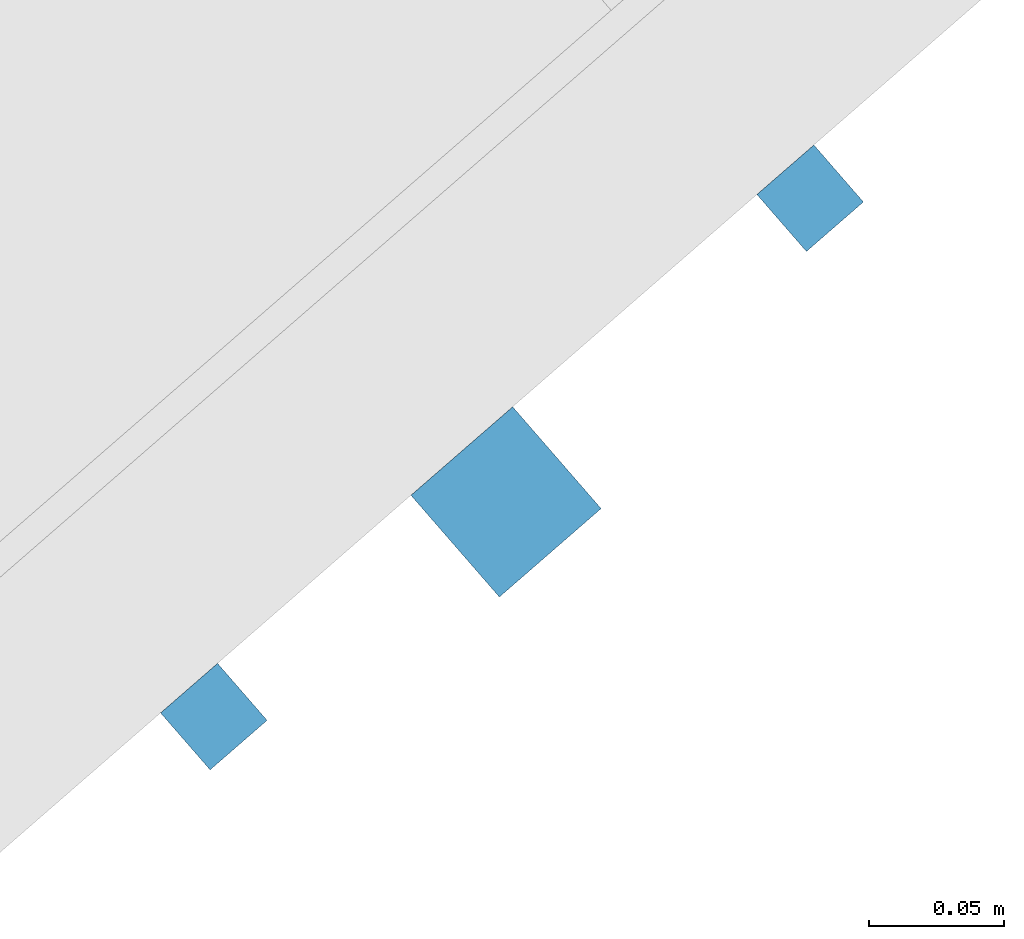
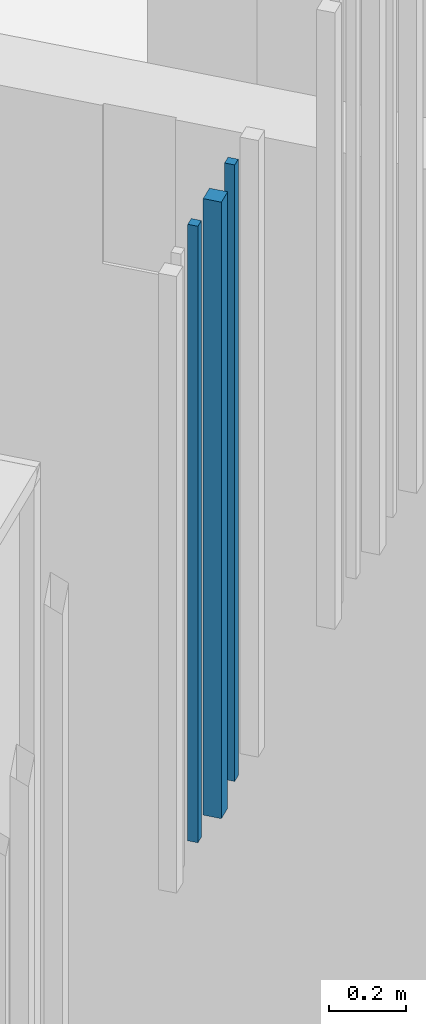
# One storey, part 43 of 124: 3 walls.
"""IFC2X3 building model written with IfcOpenShell, lengths in millimetres."""

from ifc_helpers import new_model, entity, si_unit, converted_unit, derived_unit, money_unit, direction, frame, origin_with_axes, place, context, subcontext, project, spatial, faceted_brep, material, type_object, element, save


model = new_model("IFC2X3")

# Units and contexts
model_context = context("Model", 3, precision=1e-05, world=origin_with_axes(), true_north=direction((0.0, 1.0)))
body_context = subcontext(model_context, "Body", "Model", "MODEL_VIEW")
ifc_project = project(units=[si_unit("LENGTHUNIT", "METRE", prefix="MILLI"), si_unit("AREAUNIT", "SQUARE_METRE"), si_unit("VOLUMEUNIT", "CUBIC_METRE"), converted_unit("PLANEANGLEUNIT", "DEGREE", entity("IfcPlaneAngleMeasure", 0.0174532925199), si_unit("PLANEANGLEUNIT", "RADIAN"), dimensions=[0, 0, 0, 0, 0, 0, 0]), si_unit("SOLIDANGLEUNIT", "STERADIAN"), money_unit("EUR"), converted_unit("TIMEUNIT", "Year", entity("IfcTimeMeasure", 31556926.0), si_unit("TIMEUNIT", "SECOND"), dimensions=[0, 0, 1, 0, 0, 0, 0]), si_unit("MASSUNIT", "GRAM", prefix="KILO"), si_unit("THERMODYNAMICTEMPERATUREUNIT", "DEGREE_CELSIUS"), si_unit("LUMINOUSINTENSITYUNIT", "LUMEN"), si_unit("ENERGYUNIT", "JOULE", prefix="MEGA"), derived_unit("THERMALCONDUCTANCEUNIT", [(si_unit("POWERUNIT", "WATT"), 1), (si_unit("LENGTHUNIT", "METRE"), -1), (si_unit("THERMODYNAMICTEMPERATUREUNIT", "KELVIN"), -1)]), derived_unit("SPECIFICHEATCAPACITYUNIT", [(si_unit("ENERGYUNIT", "JOULE"), 1), (si_unit("MASSUNIT", "GRAM", prefix="KILO"), -1), (si_unit("THERMODYNAMICTEMPERATUREUNIT", "KELVIN"), -1)]), derived_unit("MASSDENSITYUNIT", [(si_unit("MASSUNIT", "GRAM", prefix="KILO"), 1), (si_unit("VOLUMEUNIT", "CUBIC_METRE"), -1)])], contexts=[model_context])

# Site, building, storey
site_placement = place(None, origin_with_axes())
site = spatial("IfcSite", under=ifc_project, at=site_placement, Name="Site", CompositionType="ELEMENT")
building_placement = place(site_placement, origin_with_axes())
building = spatial("IfcBuilding", under=site, at=building_placement, Name="Building", CompositionType="ELEMENT")
storey_placement = place(building_placement, frame((0.0, 0.0, -1615.0), z_axis=(0.0, 0.0, 1.0), x_axis=(1.0, 0.0, 0.0)))
storey = spatial("IfcBuildingStorey", under=building, at=storey_placement, Name="0  korrus", CompositionType="ELEMENT", Elevation=-1615.0)

# Walls
ifc_material = material(Name="Site specified")
wall_type = type_object("IfcWallType", Name="Puitfassaadi ribistik", PredefinedType="NOTDEFINED")
for number, where, z_axis, x_axis, name in (
    (1, (154381.308578, 78846.8159101, 9530.0), (0.0, 0.0, 1.0), (-0.754709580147, -0.656059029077, 0.0), "Site specified"),
    (2, (154160.178692, 78654.5906335, 9530.0), (0.0, 0.0, 1.0), (-0.754709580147, -0.656059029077, 0.0), "Site specified"),
):
    element("IfcWall", number, at=place(storey_placement, frame(where, z_axis=z_axis, x_axis=x_axis)), inside=storey, type_object=wall_type, material=ifc_material, Name=name, context=body_context, shape_type="Brep", body=[
        faceted_brep([(14.0, 14.0, 1950.0), (14.0, 14.0, 0.0), (-14.0, 14.0, 0.0), (-14.0, 14.0, 1950.0), (14.0, -14.0, 1950.0), (14.0, -14.0, 0.0), (-14.0, -14.0, 0.0), (-14.0, -14.0, 1950.0)], [[[0, 1, 2, 3]], [[4, 5, 1, 0]], [[2, 1, 5, 6]], [[3, 2, 6, 7]], [[4, 0, 3, 7]], [[7, 6, 5, 4]]]),
    ])
wall_placement = place(storey_placement, frame((154268.528285, 78734.2023544, 9530.0), z_axis=(0.0, 0.0, 1.0), x_axis=(-0.754709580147, -0.656059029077, 0.0)))
element("IfcWall", 3, at=wall_placement, inside=storey, type_object=wall_type, material=ifc_material, Name="Site specified", context=body_context, shape_type="Brep", body=[
    faceted_brep([(25.0, 25.0, 1950.0), (25.0, 25.0, 0.0), (-25.0, 25.0, 0.0), (-25.0, 25.0, 1950.0), (25.0, -25.0, 1950.0), (25.0, -25.0, 0.0), (-25.0, -25.0, 0.0), (-25.0, -25.0, 1950.0)], [[[0, 1, 2, 3]], [[4, 5, 1, 0]], [[2, 1, 5, 6]], [[3, 2, 6, 7]], [[4, 0, 3, 7]], [[7, 6, 5, 4]]]),
])

save(model, "model.ifc")
